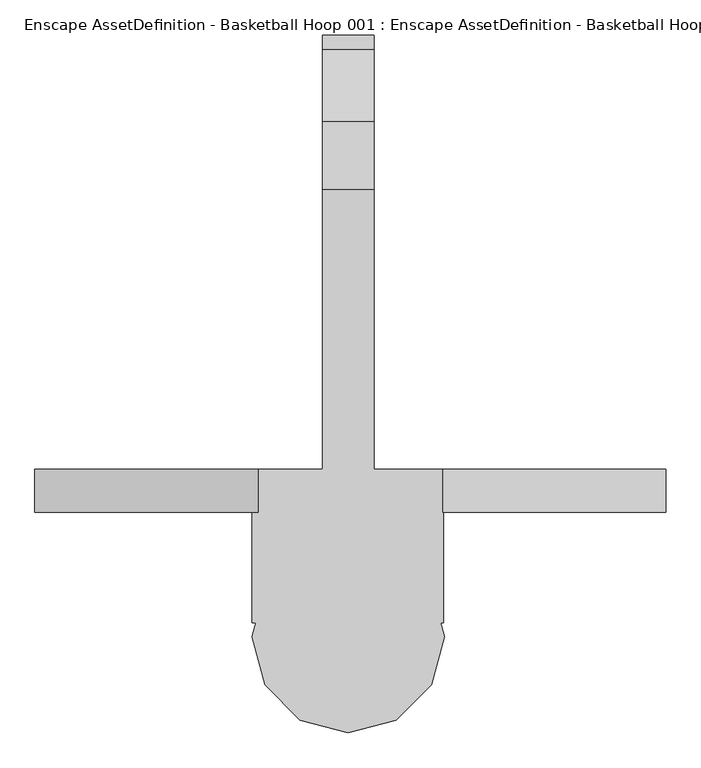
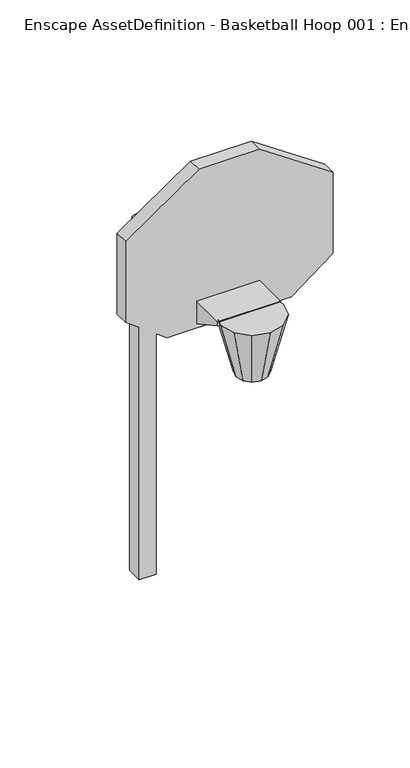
"""IFC4 building model written with IfcOpenShell, lengths in millimetres: geographic element geometry, Enscape AssetDefinition - Basketball Hoop 001 : Enscape AssetDefinition - Basketball Hoop 001."""

from ifc_helpers import new_model, si_unit, origin, place, context, project, spatial, triangles, source, transform, mapped, element, save


def enscape_assetdefinition_basketball_hoop_001_enscape_40e17c42(model_context):
    return source(origin(), model_context, "Body", "Tessellation", [
        triangles([(222.4868194, -1332.3317574, 2721.397261), (192.6792274, -1221.0882568, 2721.397261), (97.4517733, -1276.0677498, 2299.3959846), (-1e-05, -1109.8449017, 2721.397261), (111.2434097, -1139.6524572, 2721.397261), (112.5276064, -1332.331612, 2299.3959846), (-56.2638214, -1234.8800022, 2299.3959846), (-1.99e-05, -1219.8040329, 2299.3959846), (56.2637986, -1234.8800022, 2299.3959846), (-192.6792274, -1221.0882568, 2721.397261), (-111.2434097, -1139.6524572, 2721.397261), (-112.5276336, -1332.331612, 2299.3959846), (-97.4517824, -1276.0677498, 2299.3959846), (-222.4868194, -1332.3317574, 2721.397261), (-192.6792638, -1443.5749672, 2721.397261), (-3.99e-05, -1332.3317574, 2721.397261), (-97.4518096, -1388.5953289, 2299.3959846), (-56.2638622, -1429.7833672, 2299.3959846), (-111.2434824, -1525.0109848, 2721.397261), (-6.98e-05, -1444.8591911, 2299.3959846), (-9.97e-05, -1554.8186131, 2721.397261), (111.2433188, -1525.0111301, 2721.397261), (97.4517279, -1388.5954742, 2299.3959846), (192.6791729, -1443.5754032, 2721.397261), (56.2637441, -1429.7835125, 2299.3959846), (220.3278305, -1299.4875412, 2699.023336), (-222.9221852, -1299.4875412, 2699.023336), (-222.9221852, -1299.4875412, 2726.3524818), (-222.9221852, -1031.2447575, 2549.1307411), (220.3278305, -1031.2447575, 2549.1307411), (220.3278305, -1299.4875412, 2726.3524818), (220.3278305, -1031.2449028, 2726.3524818), (-222.9221852, -1031.2449028, 2726.3524818), (735.9803673, -1044.2596607, 2745.6908363), (735.9803673, -944.5943779, 3347.8168739), (735.9803673, -1044.2596607, 3347.8168739), (218.4450239, -1044.2598787, 3700.0003189), (735.9803673, -944.5942326, 2745.6908363), (442.0572833, -1044.2594427, 2526.4385216), (442.0572833, -944.5941599, 2526.4385216), (5.3916358, -1044.2594427, 2526.4385216), (-431.2740026, -1044.2594427, 2526.4385216), (-725.1972319, -1044.2596607, 3347.8168739), (-725.1972319, -1044.2596607, 2745.6908363), (-725.1972319, -944.5942326, 2745.6908363), (-431.2740026, -944.5941599, 2526.4385216), (-725.1972319, -944.5942326, 2971.8997032), (-725.1972319, -944.5943779, 3347.8168739), (5.3916358, -944.5941599, 2526.4385216), (-207.6617613, -944.5945232, 3700.0003189), (5.3916358, -944.5945232, 3700.0003189), (-207.6617613, -1044.2598787, 3700.0003189), (5.3916358, -1044.2598787, 3700.0003189), (218.4450239, -944.5945232, 3700.0003189), (-59.7992024, 59.7992024, 1e-05), (-59.7992024, -59.7992024, -1e-05), (59.7992024, -59.7992024, -1e-05), (59.7992024, 59.7992024, 1e-05), (59.7992024, 59.7987936, 2487.9490105), (-59.7992024, -59.7996112, 2487.9490105), (59.7992024, -59.7996112, 2487.9490105), (59.7992024, 25.6329467, 2651.5794296), (-59.7992024, 59.7987936, 2487.9490105), (-59.7992024, 25.6329467, 2651.5794296), (-59.7992115, -141.2951818, 2815.6915054), (59.7992024, -84.6830396, 2597.7940498), (59.7992024, -195.4824902, 2704.9197784), (-59.7992024, -195.4824902, 2704.9197784), (-59.7992024, -84.6830396, 2597.7940498), (59.7991888, -141.2951818, 2815.6915054), (-59.7992206, -298.4719524, 2853.905452), (59.7991888, -304.0134564, 2727.5701401), (-59.7992115, -304.0134564, 2727.5701401), (59.7991661, -968.0462168, 2727.5695587), (-59.7992524, -968.0462168, 2853.9051613), (-59.7992387, -968.0462168, 2727.5695587), (59.7991842, -298.4719524, 2853.905452), (59.7991524, -968.0462168, 2853.9051613)], [[78, 75, 76], [76, 74, 78], [78, 74, 72], [75, 78, 77], [72, 77, 78], [76, 75, 71], [77, 71, 75], [71, 73, 76], [74, 76, 73], [73, 72, 74], [72, 73, 68], [77, 72, 67], [68, 67, 72], [71, 77, 70], [67, 70, 77], [73, 71, 65], [65, 68, 73], [70, 65, 71], [68, 65, 64], [64, 69, 68], [67, 68, 69], [70, 67, 66], [69, 66, 67], [65, 70, 62], [62, 64, 65], [66, 62, 70], [64, 62, 59], [69, 64, 63], [59, 63, 64], [63, 60, 69], [66, 69, 60], [62, 66, 61], [61, 59, 62], [60, 61, 66], [59, 61, 57], [63, 59, 58], [57, 58, 59], [60, 63, 55], [58, 55, 63], [55, 56, 60], [61, 60, 56], [56, 57, 61], [58, 57, 56], [56, 55, 58], [52, 53, 51], [37, 54, 51], [51, 53, 37], [51, 50, 52], [52, 50, 48], [48, 43, 52], [44, 43, 48], [44, 48, 47], [49, 48, 50], [47, 48, 49], [51, 49, 50], [51, 54, 49], [49, 45, 47], [45, 44, 47], [49, 46, 45], [44, 45, 46], [46, 42, 44], [41, 43, 44], [41, 53, 52], [37, 53, 41], [41, 52, 43], [41, 42, 46], [46, 49, 41], [41, 44, 42], [41, 49, 40], [40, 39, 41], [38, 40, 49], [41, 39, 34], [34, 39, 40], [40, 38, 34], [36, 37, 41], [41, 34, 36], [54, 35, 49], [37, 36, 35], [35, 54, 37], [35, 38, 49], [34, 38, 35], [35, 36, 34], [32, 33, 28], [28, 31, 32], [32, 31, 26], [33, 32, 30], [26, 30, 32], [28, 33, 29], [30, 29, 33], [29, 27, 28], [31, 28, 27], [27, 26, 31], [30, 26, 27], [27, 29, 30], [23, 25, 6], [25, 18, 6], [25, 20, 18], [25, 23, 24], [24, 22, 25], [20, 25, 22], [22, 21, 20], [18, 20, 21], [21, 19, 18], [17, 18, 19], [19, 15, 17], [22, 24, 16], [21, 22, 16], [19, 21, 16], [15, 19, 16], [14, 15, 16], [15, 14, 12], [12, 17, 15], [18, 17, 12], [13, 12, 14], [14, 10, 13], [10, 14, 16], [7, 13, 10], [18, 7, 6], [18, 12, 7], [12, 13, 7], [10, 11, 7], [11, 10, 16], [8, 7, 11], [11, 4, 8], [4, 11, 16], [9, 8, 4], [7, 9, 6], [7, 8, 9], [9, 3, 6], [4, 5, 9], [3, 9, 5], [5, 4, 16], [5, 2, 3], [6, 3, 2], [2, 5, 16], [1, 24, 23], [23, 6, 1], [2, 1, 6], [24, 1, 16], [1, 2, 16]]),
    ])


if __name__ == "__main__":
    model = new_model("IFC4")
    model_context = context("Model", 3, world=origin())
    ifc_project = project(units=[si_unit("LENGTHUNIT", "METRE", prefix="MILLI")], contexts=[model_context])
    site = spatial("IfcSite", under=ifc_project)
    building = spatial("IfcBuilding", under=site)
    placement = place(None, origin())
    enscape_assetdefinition_basketball_hoop_001_enscape_shape = enscape_assetdefinition_basketball_hoop_001_enscape_40e17c42(model_context)
    element("IfcGeographicElement", 1, ObjectType="Enscape AssetDefinition - Basketball Hoop 001 : Enscape AssetDefinition - Basketball Hoop 001", at=placement, inside=building, context=model_context, shape_type="MappedRepresentation", body=[
        mapped(enscape_assetdefinition_basketball_hoop_001_enscape_shape, transform((0.0, 0.0, 0.0), x_axis=(1.0, 0.0, 0.0), y_axis=(0.0, 1.0, 0.0), z_axis=(0.0, 0.0, 1.0))),
    ])
    save(model, "model.ifc")
